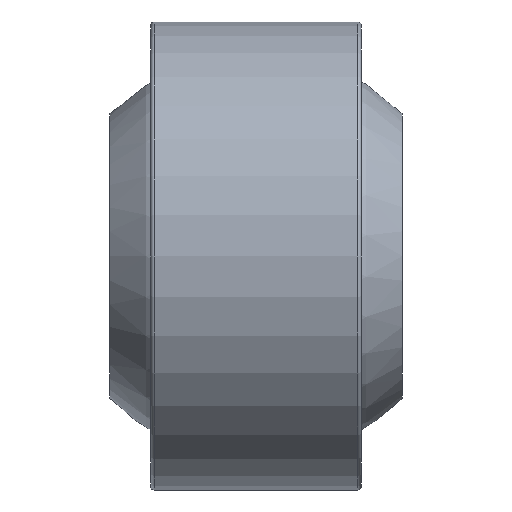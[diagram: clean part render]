
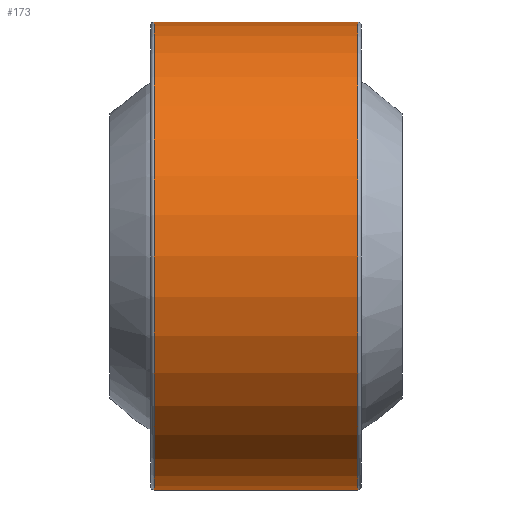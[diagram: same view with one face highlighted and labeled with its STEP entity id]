
A CAD part, front view. The second image highlights one B-rep face of the part: STEP entity #173.
In plain terms, the highlighted cylindrical face has radius 20 mm (diameter 40 mm), a full revolution.
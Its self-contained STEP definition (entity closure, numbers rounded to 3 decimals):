
#173 = ADVANCED_FACE( '', ( #195, #196, #197 ), #198, .T. );
#195 = FACE_OUTER_BOUND( '', #231, .T. );
#196 = FACE_BOUND( '', #232, .T. );
#197 = FACE_OUTER_BOUND( '', #233, .T. );
#198 = CYLINDRICAL_SURFACE( '', #234, 20. );
#231 = EDGE_LOOP( '', ( #274 ) );
#232 = EDGE_LOOP( '', ( #275 ) );
#233 = EDGE_LOOP( '', ( #276 ) );
#234 = AXIS2_PLACEMENT_3D( '', #277, #278, #279 );
#274 = ORIENTED_EDGE( '', *, *, #316, .T. );
#275 = ORIENTED_EDGE( '', *, *, #317, .T. );
#276 = ORIENTED_EDGE( '', *, *, #314, .F. );
#277 = CARTESIAN_POINT( '', ( 9., 0., 0. ) );
#278 = DIRECTION( '', ( -1., 0., 0. ) );
#279 = DIRECTION( '', ( 0., 0., -1. ) );
#314 = EDGE_CURVE( '', #330, #330, #331, .T. );
#316 = EDGE_CURVE( '', #334, #334, #335, .T. );
#317 = EDGE_CURVE( '', #336, #336, #337, .T. );
#330 = VERTEX_POINT( '', #354 );
#331 = CIRCLE( '', #355, 20. );
#334 = VERTEX_POINT( '', #358 );
#335 = CIRCLE( '', #359, 20. );
#336 = VERTEX_POINT( '', #360 );
#337 = B_SPLINE_CURVE_WITH_KNOTS( '', 3, ( #361, #362, #363, #364, #365, #366, #367, #368, #369, #370, #371, #372, #373, #374, #375, #376, #377, #378, #379, #380, #381, #382, #383, #384, #385, #386, #387, #388, #389, #390, #391, #392, #393, #394 ), .UNSPECIFIED., .T., .F., ( 2, 2, 2, 2, 2, 2, 2, 2, 2, 2, 2, 2, 2, 2, 2, 2, 2, 2, 2 ), ( 0., 0., 0., 0.001, 0.001, 0.002, 0.002, 0.003, 0.003, 0.004, 0.004, 0.004, 0.005, 0.005, 0.006, 0.006, 0.007, 0.007, 0.008 ), .UNSPECIFIED. );
#354 = CARTESIAN_POINT( '', ( 8.7, 0., -20. ) );
#355 = AXIS2_PLACEMENT_3D( '', #415, #416, #417 );
#358 = CARTESIAN_POINT( '', ( -8.7, 0., -20. ) );
#359 = AXIS2_PLACEMENT_3D( '', #421, #422, #423 );
#360 = CARTESIAN_POINT( '', ( 1.15, 20., 0. ) );
#361 = CARTESIAN_POINT( '', ( 1.15, 20., -0.152 ) );
#362 = CARTESIAN_POINT( '', ( 1.15, 20., 0.152 ) );
#363 = CARTESIAN_POINT( '', ( 1.12, 19.998, 0.301 ) );
#364 = CARTESIAN_POINT( '', ( 1.005, 19.992, 0.58 ) );
#365 = CARTESIAN_POINT( '', ( 0.919, 19.988, 0.707 ) );
#366 = CARTESIAN_POINT( '', ( 0.707, 19.979, 0.919 ) );
#367 = CARTESIAN_POINT( '', ( 0.579, 19.975, 1.005 ) );
#368 = CARTESIAN_POINT( '', ( 0.302, 19.969, 1.12 ) );
#369 = CARTESIAN_POINT( '', ( 0.151, 19.967, 1.15 ) );
#370 = CARTESIAN_POINT( '', ( -0.149, 19.967, 1.15 ) );
#371 = CARTESIAN_POINT( '', ( -0.3, 19.969, 1.12 ) );
#372 = CARTESIAN_POINT( '', ( -0.579, 19.975, 1.005 ) );
#373 = CARTESIAN_POINT( '', ( -0.705, 19.979, 0.921 ) );
#374 = CARTESIAN_POINT( '', ( -0.92, 19.988, 0.706 ) );
#375 = CARTESIAN_POINT( '', ( -1.005, 19.992, 0.58 ) );
#376 = CARTESIAN_POINT( '', ( -1.12, 19.998, 0.301 ) );
#377 = CARTESIAN_POINT( '', ( -1.15, 20., 0.151 ) );
#378 = CARTESIAN_POINT( '', ( -1.15, 20., -0.15 ) );
#379 = CARTESIAN_POINT( '', ( -1.12, 19.998, -0.301 ) );
#380 = CARTESIAN_POINT( '', ( -1.005, 19.992, -0.578 ) );
#381 = CARTESIAN_POINT( '', ( -0.92, 19.988, -0.706 ) );
#382 = CARTESIAN_POINT( '', ( -0.708, 19.979, -0.919 ) );
#383 = CARTESIAN_POINT( '', ( -0.58, 19.975, -1.004 ) );
#384 = CARTESIAN_POINT( '', ( -0.302, 19.969, -1.12 ) );
#385 = CARTESIAN_POINT( '', ( -0.153, 19.967, -1.15 ) );
#386 = CARTESIAN_POINT( '', ( 0.151, 19.967, -1.15 ) );
#387 = CARTESIAN_POINT( '', ( 0.3, 19.969, -1.12 ) );
#388 = CARTESIAN_POINT( '', ( 0.579, 19.975, -1.005 ) );
#389 = CARTESIAN_POINT( '', ( 0.706, 19.979, -0.92 ) );
#390 = CARTESIAN_POINT( '', ( 0.919, 19.988, -0.708 ) );
#391 = CARTESIAN_POINT( '', ( 1.004, 19.992, -0.58 ) );
#392 = CARTESIAN_POINT( '', ( 1.119, 19.998, -0.303 ) );
#393 = CARTESIAN_POINT( '', ( 1.15, 20., -0.152 ) );
#394 = CARTESIAN_POINT( '', ( 1.15, 20., 0.152 ) );
#415 = CARTESIAN_POINT( '', ( 8.7, 0., 0. ) );
#416 = DIRECTION( '', ( 1., 0., 0. ) );
#417 = DIRECTION( '', ( 0., 0., -1. ) );
#421 = CARTESIAN_POINT( '', ( -8.7, 0., 0. ) );
#422 = DIRECTION( '', ( 1., 0., 0. ) );
#423 = DIRECTION( '', ( 0., 0., -1. ) );
